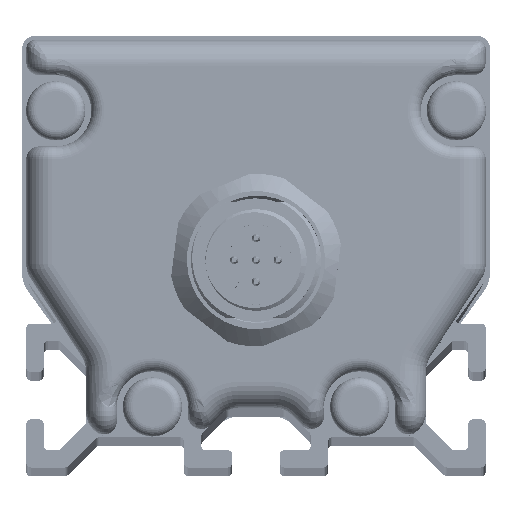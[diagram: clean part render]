
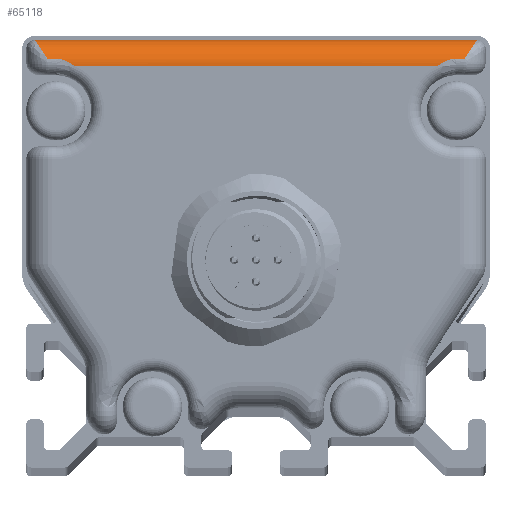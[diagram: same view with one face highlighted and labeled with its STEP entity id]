
A CAD part, top view. The second image highlights one B-rep face of the part: STEP entity #65118.
In plain terms, the highlighted cylindrical face has radius 3 mm (diameter 6 mm), a partial arc.
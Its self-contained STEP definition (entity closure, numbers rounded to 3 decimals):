
#1040 = VERTEX_POINT ( 'NONE', #98433 ) ;
#1204 = VERTEX_POINT ( 'NONE', #95035 ) ;
#2538 = CARTESIAN_POINT ( 'NONE',  ( -25.049, 38.174, 9.486 ) ) ;
#5855 = CARTESIAN_POINT ( 'NONE',  ( 22.807, 36.829, 9.883 ) ) ;
#9254 = VERTEX_POINT ( 'NONE', #73967 ) ;
#9278 = ORIENTED_EDGE ( 'NONE', *, *, #121531, .F. ) ;
#13842 = FACE_OUTER_BOUND ( 'NONE', #109275, .T. ) ;
#14370 = CARTESIAN_POINT ( 'NONE',  ( 23.002, 36.85, 9.877 ) ) ;
#14703 = VECTOR ( 'NONE', #50530, 1000. ) ;
#15124 = DIRECTION ( 'NONE',  ( 0., 0., -1. ) ) ;
#17676 = ORIENTED_EDGE ( 'NONE', *, *, #32954, .F. ) ;
#18904 = CARTESIAN_POINT ( 'NONE',  ( -24.167, 36.85, 9.877 ) ) ;
#21035 = LINE ( 'NONE', #97341, #52851 ) ;
#21103 = ORIENTED_EDGE ( 'NONE', *, *, #113017, .F. ) ;
#22979 = ORIENTED_EDGE ( 'NONE', *, *, #76631, .T. ) ;
#23059 = CARTESIAN_POINT ( 'NONE',  ( -22.803, 36.829, 9.884 ) ) ;
#23662 = CARTESIAN_POINT ( 'NONE',  ( 0., 36., 7. ) ) ;
#23706 = CARTESIAN_POINT ( 'NONE',  ( -21.208, 36.126, 10. ) ) ;
#26657 = VERTEX_POINT ( 'NONE', #107688 ) ;
#32954 = EDGE_CURVE ( 'NONE', #26657, #1040, #62979, .T. ) ;
#33362 = AXIS2_PLACEMENT_3D ( 'NONE', #23662, #123443, #15124 ) ;
#33620 = B_SPLINE_CURVE_WITH_KNOTS ( 'NONE', 3,
 ( #86706, #76927, #23059, #43272, #83671, #62782, #103258, #126548, #23706, #52359 ),
 .UNSPECIFIED., .F., .F.,
 ( 4, 2, 2, 2, 4 ),
 ( 0., 0.001, 0.001, 0.002, 0.002 ),
 .UNSPECIFIED. ) ;
#34782 = VERTEX_POINT ( 'NONE', #18904 ) ;
#35229 = CARTESIAN_POINT ( 'NONE',  ( 22.424, 36.749, 9.905 ) ) ;
#35673 = CARTESIAN_POINT ( 'NONE',  ( 25.049, 38.174, 9.486 ) ) ;
#39069 = VERTEX_POINT ( 'NONE', #111341 ) ;
#40284 = VERTEX_POINT ( 'NONE', #44156 ) ;
#42825 = DIRECTION ( 'NONE',  ( -1., 0., 0. ) ) ;
#43272 = CARTESIAN_POINT ( 'NONE',  ( -22.421, 36.748, 9.906 ) ) ;
#43974 = EDGE_CURVE ( 'NONE', #40284, #71871, #63492, .T. ) ;
#44156 = CARTESIAN_POINT ( 'NONE',  ( 24.167, 36.85, 9.877 ) ) ;
#47402 = CARTESIAN_POINT ( 'NONE',  ( 25.6, 39., 7. ) ) ;
#50530 = DIRECTION ( 'NONE',  ( 1., 0., 0. ) ) ;
#52359 = CARTESIAN_POINT ( 'NONE',  ( -21.055, 36., 10. ) ) ;
#52851 = VECTOR ( 'NONE', #60123, 1000. ) ;
#54119 = CARTESIAN_POINT ( 'NONE',  ( 0., 36.85, 9.877 ) ) ;
#55869 = CARTESIAN_POINT ( 'NONE',  ( 24.167, 36.85, 9.877 ) ) ;
#60123 = DIRECTION ( 'NONE',  ( 1., 0., 0. ) ) ;
#62782 = CARTESIAN_POINT ( 'NONE',  ( -21.876, 36.54, 9.952 ) ) ;
#62979 = LINE ( 'NONE', #111971, #102998 ) ;
#63492 =( BOUNDED_CURVE ( )  B_SPLINE_CURVE ( 3, ( #55869, #35673, #94987, #47402 ),
 .UNSPECIFIED., .F., .F. ) 
 B_SPLINE_CURVE_WITH_KNOTS ( ( 4, 4 ),
 ( 5., 6.283 ),
 .UNSPECIFIED. ) 
 CURVE ( )  GEOMETRIC_REPRESENTATION_ITEM ( )  RATIONAL_B_SPLINE_CURVE ( ( 1., 0.867, 0.867, 1. ) ) 
 REPRESENTATION_ITEM ( '' )  );
#65118 = ADVANCED_FACE ( 'NONE', ( #13842 ), #94018, .T. ) ;
#68160 = LINE ( 'NONE', #79907, #14703 ) ;
#68856 = ORIENTED_EDGE ( 'NONE', *, *, #105479, .T. ) ;
#70051 = ORIENTED_EDGE ( 'NONE', *, *, #105570, .T. ) ;
#70997 = CARTESIAN_POINT ( 'NONE',  ( -25.6, 39., 8.38 ) ) ;
#71871 = VERTEX_POINT ( 'NONE', #120667 ) ;
#73691 = CARTESIAN_POINT ( 'NONE',  ( 23.2, 36.85, 9.877 ) ) ;
#73967 = CARTESIAN_POINT ( 'NONE',  ( -25.6, 39., 7. ) ) ;
#74315 = CARTESIAN_POINT ( 'NONE',  ( 22.234, 36.689, 9.921 ) ) ;
#76631 = EDGE_CURVE ( 'NONE', #1204, #1040, #33620, .T. ) ;
#76927 = CARTESIAN_POINT ( 'NONE',  ( -23.002, 36.85, 9.877 ) ) ;
#79071 = ORIENTED_EDGE ( 'NONE', *, *, #109987, .T. ) ;
#79907 = CARTESIAN_POINT ( 'NONE',  ( 25.6, 39., 7. ) ) ;
#83505 = CARTESIAN_POINT ( 'NONE',  ( 21.693, 36.464, 9.968 ) ) ;
#83671 = CARTESIAN_POINT ( 'NONE',  ( -22.236, 36.689, 9.921 ) ) ;
#86706 = CARTESIAN_POINT ( 'NONE',  ( -23.2, 36.85, 9.877 ) ) ;
#93648 = VECTOR ( 'NONE', #114798, 1000. ) ;
#94018 = CYLINDRICAL_SURFACE ( 'NONE', #33362, 3. ) ;
#94987 = CARTESIAN_POINT ( 'NONE',  ( 25.6, 39., 8.38 ) ) ;
#95035 = CARTESIAN_POINT ( 'NONE',  ( -23.2, 36.85, 9.877 ) ) ;
#97341 = CARTESIAN_POINT ( 'NONE',  ( 0., 36.85, 9.877 ) ) ;
#98433 = CARTESIAN_POINT ( 'NONE',  ( -21.055, 36., 10. ) ) ;
#99021 = ORIENTED_EDGE ( 'NONE', *, *, #43974, .T. ) ;
#99197 =( BOUNDED_CURVE ( )  B_SPLINE_CURVE ( 3, ( #111495, #2538, #70997, #110849 ),
 .UNSPECIFIED., .F., .T. ) 
 B_SPLINE_CURVE_WITH_KNOTS ( ( 4, 4 ),
 ( 5., 6.283 ),
 .UNSPECIFIED. ) 
 CURVE ( )  GEOMETRIC_REPRESENTATION_ITEM ( )  RATIONAL_B_SPLINE_CURVE ( ( 1., 0.867, 0.867, 1. ) ) 
 REPRESENTATION_ITEM ( '' )  );
#102998 = VECTOR ( 'NONE', #42825, 1000. ) ;
#103258 = CARTESIAN_POINT ( 'NONE',  ( -21.7, 36.448, 9.968 ) ) ;
#103737 = CARTESIAN_POINT ( 'NONE',  ( 21.055, 36., 10. ) ) ;
#105479 = EDGE_CURVE ( 'NONE', #26657, #39069, #114455, .T. ) ;
#105570 = EDGE_CURVE ( 'NONE', #34782, #1204, #113523, .T. ) ;
#107688 = CARTESIAN_POINT ( 'NONE',  ( 21.055, 36., 10. ) ) ;
#109275 = EDGE_LOOP ( 'NONE', ( #68856, #79071, #99021, #9278, #21103, #70051, #22979, #17676 ) ) ;
#109987 = EDGE_CURVE ( 'NONE', #39069, #40284, #21035, .T. ) ;
#110849 = CARTESIAN_POINT ( 'NONE',  ( -25.6, 39., 7. ) ) ;
#111341 = CARTESIAN_POINT ( 'NONE',  ( 23.2, 36.85, 9.877 ) ) ;
#111495 = CARTESIAN_POINT ( 'NONE',  ( -24.167, 36.85, 9.877 ) ) ;
#111971 = CARTESIAN_POINT ( 'NONE',  ( -25.6, 36., 10. ) ) ;
#113017 = EDGE_CURVE ( 'NONE', #34782, #9254, #99197, .T. ) ;
#113523 = LINE ( 'NONE', #54119, #93648 ) ;
#114455 = B_SPLINE_CURVE_WITH_KNOTS ( 'NONE', 3,
 ( #103737, #124605, #83505, #74315, #35229, #5855, #14370, #73691 ),
 .UNSPECIFIED., .F., .F.,
 ( 4, 2, 2, 4 ),
 ( 0., 0.001, 0.002, 0.002 ),
 .UNSPECIFIED. ) ;
#114798 = DIRECTION ( 'NONE',  ( 1., 0., 0. ) ) ;
#120667 = CARTESIAN_POINT ( 'NONE',  ( 25.6, 39., 7. ) ) ;
#121531 = EDGE_CURVE ( 'NONE', #9254, #71871, #68160, .T. ) ;
#123443 = DIRECTION ( 'NONE',  ( 1., 0., 0. ) ) ;
#124605 = CARTESIAN_POINT ( 'NONE',  ( 21.36, 36.251, 10. ) ) ;
#126548 = CARTESIAN_POINT ( 'NONE',  ( -21.367, 36.241, 9.992 ) ) ;
